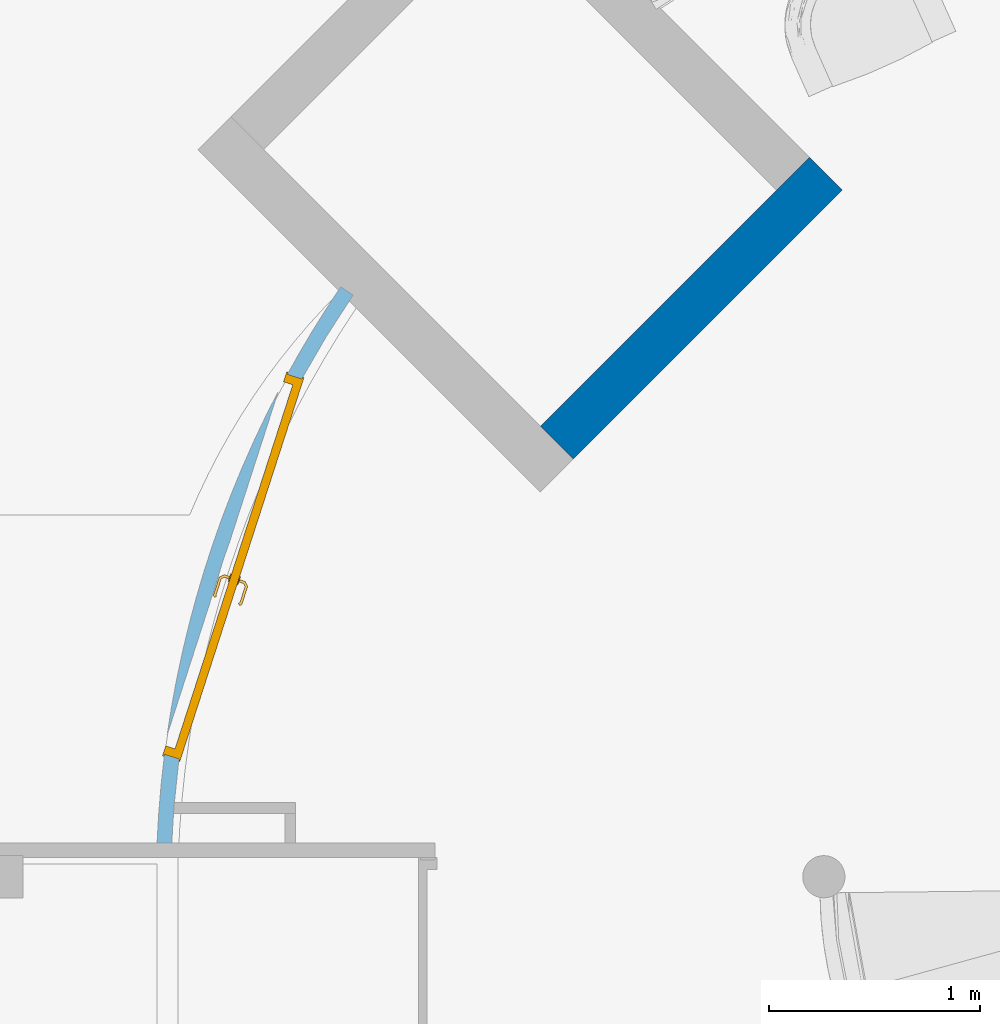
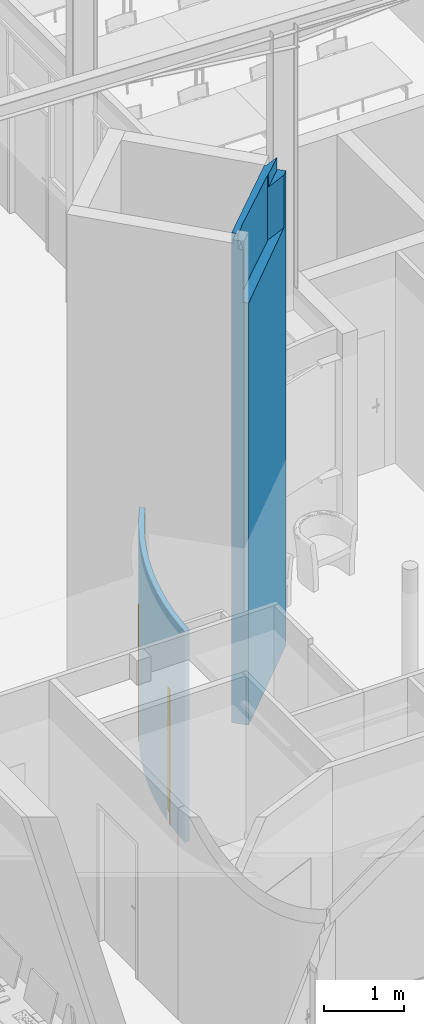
# One storey, part 88 of 137: 1 door, 1 wall, 1 opening, plus 1 element that does not belong to this part.
"""IFC2X3 building model written with IfcOpenShell, lengths in centimetres."""

from ifc_helpers import new_model, entity, si_unit, converted_unit, derived_unit, direction, frame, frame_2d, origin, place, context, subcontext, project, spatial, polyline, circle_curve, parameter, trimmed, segment, composite_curve, rectangle, outline, extrude, faceted_brep, source, transform, mapped, material, material_list, layer, layer_set, layer_usage, type_object, type_shapes, element, fill, save


model = new_model("IFC2X3")

# Units and contexts
model_context = context("Model", 3, precision=0.001, world=origin(), true_north=direction((6.12303176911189e-17, 1.0)))
body_context = subcontext(model_context, "Body", "Model", "MODEL_VIEW")
ifc_project = project(units=[si_unit("LENGTHUNIT", "METRE", prefix="CENTI"), si_unit("AREAUNIT", "SQUARE_METRE"), si_unit("VOLUMEUNIT", "CUBIC_METRE"), converted_unit("PLANEANGLEUNIT", "DEGREE", entity("IfcRatioMeasure", 0.0174532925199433), si_unit("PLANEANGLEUNIT", "RADIAN"), dimensions=[0, 0, 0, 0, 0, 0, 0]), si_unit("MASSUNIT", "GRAM", prefix="KILO"), si_unit("TIMEUNIT", "SECOND"), si_unit("FREQUENCYUNIT", "HERTZ"), si_unit("THERMODYNAMICTEMPERATUREUNIT", "DEGREE_CELSIUS"), derived_unit("THERMALTRANSMITTANCEUNIT", [(si_unit("MASSUNIT", "GRAM", prefix="KILO"), 1), (si_unit("THERMODYNAMICTEMPERATUREUNIT", "KELVIN"), -1), (si_unit("TIMEUNIT", "SECOND"), -3)]), derived_unit("VOLUMETRICFLOWRATEUNIT", [(si_unit("LENGTHUNIT", "METRE"), 3), (si_unit("TIMEUNIT", "SECOND"), -1)]), si_unit("ELECTRICCURRENTUNIT", "AMPERE"), si_unit("ELECTRICVOLTAGEUNIT", "VOLT"), si_unit("POWERUNIT", "WATT"), si_unit("FORCEUNIT", "NEWTON", prefix="KILO"), si_unit("ILLUMINANCEUNIT", "LUX"), si_unit("LUMINOUSFLUXUNIT", "LUMEN"), si_unit("LUMINOUSINTENSITYUNIT", "CANDELA"), derived_unit("USERDEFINED", [(si_unit("MASSUNIT", "GRAM", prefix="KILO"), -1), (si_unit("LENGTHUNIT", "METRE"), -2), (si_unit("TIMEUNIT", "SECOND"), 3), (si_unit("LUMINOUSFLUXUNIT", "LUMEN"), 1)]), derived_unit("LINEARVELOCITYUNIT", [(si_unit("LENGTHUNIT", "METRE"), 1), (si_unit("TIMEUNIT", "SECOND"), -1)]), si_unit("PRESSUREUNIT", "PASCAL"), derived_unit("USERDEFINED", [(si_unit("LENGTHUNIT", "METRE"), -2), (si_unit("MASSUNIT", "GRAM", prefix="KILO"), 1), (si_unit("TIMEUNIT", "SECOND"), -2)])], contexts=[model_context])

# Site, building, storey
site_placement = place(None, frame((8.62739174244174, -249.285249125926, 0.0)))
site = spatial("IfcSite", under=ifc_project, at=site_placement, Name="Default", CompositionType="ELEMENT")
building_placement = place(site_placement, origin())
building = spatial("IfcBuilding", under=site, at=building_placement, CompositionType="ELEMENT")
storey_placement = place(building_placement, origin())
storey = spatial("IfcBuildingStorey", under=building, at=storey_placement, Name="RDC", CompositionType="ELEMENT", Elevation=-8.82465566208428e-11)

# Wall, opening, door
ifc_material_1 = material(Name="Plâtre EXISTANT")
ifc_layer_1 = layer(ifc_material_1, 7.0)
ifc_layer_set_1 = layer_set([ifc_layer_1], Name="Mur de base:PLA EXISTANT 7")
ifc_layer_usage = layer_usage(ifc_layer_set_1, "AXIS2", "POSITIVE", -3.5)
wall_type_1 = type_object("IfcWallType", Name="Mur de base:PLA EXISTANT 7", PredefinedType="STANDARD", material=ifc_layer_set_1)
wall_1_placement = place(storey_placement, frame((2537.84354579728, 777.851436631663, 0.0)))
wall_1 = element("IfcWallStandardCase", 1, at=wall_1_placement, inside=storey, type_object=wall_type_1, material=ifc_layer_usage, Name="Mur de base:PLA EXISTANT 7", ObjectType="Mur de base:PLA EXISTANT 7", context=body_context, shape_type="SweptSolid", body=[
    extrude(outline(composite_curve([segment(trimmed(circle_curve(frame_2d((503.04621240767, -21.3719017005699), x_axis=(1.0, 0.0)), 507.000000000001), [parameter(145.861090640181)], [parameter(177.567253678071)], True, "PARAMETER"), True, "CONTINUOUS"), segment(polyline([(-3.49684556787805, 0.148563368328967), (3.50955751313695, 0.148563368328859)]), True, "CONTINUOUS"), segment(polyline([(3.50955751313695, 0.14856336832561), (3.86055669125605, 7.15319474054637)]), True, "CONTINUOUS"), segment(polyline([(3.86055669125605, 7.15319474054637), (4.30984132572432, 14.1523090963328)]), True, "CONTINUOUS"), segment(polyline([(4.30984132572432, 14.1523090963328), (4.49402175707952, 16.6506336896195)]), True, "CONTINUOUS"), segment(polyline([(4.49402175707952, 16.6506336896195), (4.6910426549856, 19.1509654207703)]), True, "CONTINUOUS"), segment(polyline([(4.6910426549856, 19.1509654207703), (7.13166242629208, 42.4149238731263)]), True, "CONTINUOUS"), segment(polyline([(7.13166242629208, 42.4149238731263), (10.6580216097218, 65.5410982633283)]), True, "CONTINUOUS"), segment(polyline([(10.6580216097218, 65.5410982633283), (15.2622207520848, 88.4769830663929)]), True, "CONTINUOUS"), segment(polyline([(15.2622207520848, 88.4769830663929), (20.9341817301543, 111.17239231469)]), True, "CONTINUOUS"), segment(polyline([(20.9341817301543, 111.17239231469), (27.6614928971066, 133.577665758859)]), True, "CONTINUOUS"), segment(polyline([(27.6614928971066, 133.577665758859), (35.4294361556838, 155.643777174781)]), True, "CONTINUOUS"), segment(polyline([(35.4294361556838, 155.643777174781), (44.2210190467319, 177.322441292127)]), True, "CONTINUOUS"), segment(polyline([(44.2210190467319, 177.322441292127), (54.0170117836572, 198.566219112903)]), True, "CONTINUOUS"), segment(polyline([(54.0170117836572, 198.566219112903), (64.795989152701, 219.328621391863)]), True, "CONTINUOUS"), segment(polyline([(64.795989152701, 219.328621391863), (76.5343406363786, 239.564150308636)]), True, "CONTINUOUS"), segment(polyline([(76.5343406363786, 239.564150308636), (89.2065045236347, 259.228697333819)]), True, "CONTINUOUS"), segment(polyline([(89.2065045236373, 259.228697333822), (83.4127486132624, 263.157105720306)]), True, "CONTINUOUS")], self_intersect=False)), origin(), (0.0, 0.0, 1.0), 322.000000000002),
])
opening_placement = place(wall_1_placement, frame((41.8345070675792, 28.4686335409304, 0.0)))
opening = element("IfcOpeningElement", 2, at=opening_placement, cuts=wall_1, Name="Double(R)_bois_Existant_mu:183 x 204 cm:1", ObjectType="Opening", context=body_context, shape_type="SweptSolid", body=[
    extrude(rectangle(XDim=206.999999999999, YDim=189.0, at=frame_2d((103.499999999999, 94.5), x_axis=(1.0, 0.0))), frame((0.0, 0.0, 0.0), z_axis=(-0.951478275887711, 0.307715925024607, 0.0), x_axis=(0.0, 0.0, 1.0)), (0.0, 0.0, 1.0), 45.5719508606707),
])
ifc_material_2 = material(Name="Porte - Poignée")
ifc_material_3 = material(Name="Porte - Cadre")
ifc_material_4 = material(Name="Porte - Panneau")
ifc_material_list_1 = material_list([ifc_material_2, ifc_material_3, ifc_material_4])
ifc_material_list_2 = material_list([ifc_material_2, ifc_material_3, ifc_material_4])
door_style = type_object("IfcDoorStyle", Name="183 x 204 cm", ConstructionType="NOTDEFINED", OperationType="DOUBLE_DOOR_SINGLE_SWING", ParameterTakesPrecedence=False, Sizeable=False, material=ifc_material_list_2)
shared_shape = source(origin(), body_context, "Body", "Brep", [
    faceted_brep([(89.2025298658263, 3.69999999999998, 100.778044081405), (88.7974701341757, 3.69999999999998, 100.778044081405), (88.3999999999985, 3.69999999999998, 100.699999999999), (88.4000000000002, 3.69999999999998, 99.3000000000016), (88.7974701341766, 3.69999999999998, 99.2219559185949), (89.2025298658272, 3.69999999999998, 99.2219559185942), (89.6000000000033, 3.69999999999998, 99.2999999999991), (89.600000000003, 3.69999999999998, 100.699999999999), (88.3999999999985, 5.94852045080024, 100.699999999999), (88.3999999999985, 5.94852045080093, 99.3000000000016), (88.7974701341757, 6.1131579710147, 100.778044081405), (89.2025298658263, 6.2809392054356, 100.778044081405), (87.583890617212, 7.89957845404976, 100.778044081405), (87.4161093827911, 7.49451872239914, 100.778044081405), (79.0793122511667, 7.49451872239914, 100.778044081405), (78.9115310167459, 7.89957845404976, 100.778044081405), (78.145104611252, 7.13315204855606, 100.778044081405), (78.4315250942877, 6.84673156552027, 100.778044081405), (89.6000000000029, 6.44557672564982, 100.699999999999), (89.6000000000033, 6.44557672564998, 99.2999999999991), (89.2025298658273, 6.28093920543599, 99.2219559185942), (88.7974701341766, 6.11315797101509, 99.2219559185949), (87.4161093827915, 7.49451872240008, 99.2219559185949), (87.5838906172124, 7.8995784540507, 99.2219559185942), (78.9115310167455, 7.8995784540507, 99.2219559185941), (79.0793122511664, 7.49451872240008, 99.2219559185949), (78.4315250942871, 6.84673156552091, 99.2219559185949), (78.1451046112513, 7.1331520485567, 99.2219559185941), (87.2514718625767, 7.09704858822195, 100.699999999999), (87.2514718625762, 7.09704858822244, 99.3000000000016), (87.7485281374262, 8.29704858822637, 100.699999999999), (87.7485281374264, 8.29704858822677, 99.2999999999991), (83.2477108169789, 7.09704858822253, 100.699999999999), (79.2439497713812, 7.09704858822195, 100.699999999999), (79.2439497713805, 7.09704858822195, 99.3000000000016), (83.2477108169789, 7.09704858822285, 99.3000000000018), (83.2477108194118, 7.71249275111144, 100.787811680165), (82.7399422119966, 8.29704858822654, 100.699999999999), (78.7468934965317, 8.29704858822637, 100.699999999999), (83.7554791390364, 8.29704858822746, 99.2999999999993), (78.7468934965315, 8.29704858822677, 99.2999999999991), (83.247710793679, 7.71249274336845, 99.2121883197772), (77.8640507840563, 7.41420587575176, 100.699999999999), (77.8640507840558, 7.41420587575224, 99.2999999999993), (78.7125789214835, 6.56567773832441, 99.3000000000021), (78.7125789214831, 6.56567773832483, 100.699999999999)], [[[0, 1, 2, 3, 4, 5, 6, 7]], [[8, 9, 3, 2]], [[1, 10, 8, 2]], [[1, 0, 11, 12, 13, 10]], [[14, 15, 16, 17]], [[7, 18, 11, 0]], [[18, 7, 6, 19]], [[6, 5, 20, 19]], [[5, 4, 21, 22, 23, 20]], [[24, 25, 26, 27]], [[4, 3, 9, 21]], [[28, 29, 9, 8]], [[8, 10, 13, 28]], [[18, 30, 12, 11]], [[31, 30, 18, 19]], [[19, 20, 23, 31]], [[21, 9, 29, 22]], [[29, 28, 32, 33, 34, 35]], [[36, 32, 13]], [[37, 38, 15]], [[37, 12, 30]], [[36, 12, 37]], [[14, 32, 36]], [[36, 15, 14]], [[28, 13, 32]], [[32, 14, 33]], [[12, 36, 13]], [[15, 36, 37]], [[30, 31, 39, 40, 38, 37]], [[23, 41, 39]], [[24, 39, 41]], [[39, 31, 23]], [[39, 24, 40]], [[22, 35, 41]], [[41, 23, 22]], [[41, 35, 25]], [[35, 22, 29]], [[34, 25, 35]], [[24, 41, 25]], [[17, 16, 42, 43, 27, 26, 44, 45]], [[45, 44, 34, 33]], [[33, 14, 17, 45]], [[15, 38, 42, 16]], [[43, 42, 38, 40]], [[24, 27, 43, 40]], [[34, 44, 26, 25]]]),
    faceted_brep([(88.7974701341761, -1.30000000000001, 100.778044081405), (89.2025298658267, -1.30000000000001, 100.778044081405), (89.6000000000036, -1.30000000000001, 100.699999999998), (89.6000000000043, -1.30000000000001, 99.2999999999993), (89.2025298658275, -1.30000000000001, 99.2219559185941), (88.7974701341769, -1.30000000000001, 99.2219559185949), (88.3999999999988, -1.30000000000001, 99.3000000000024), (88.3999999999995, -1.30000000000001, 100.699999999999), (89.2025298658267, -3.90045754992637, 100.778044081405), (89.6000000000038, -4.06509507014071, 100.699999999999), (88.7974701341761, -3.73267631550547, 100.778044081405), (87.4298602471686, -5.10028620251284, 100.778044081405), (87.5976414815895, -5.50534593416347, 100.778044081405), (78.9142453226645, -5.50534593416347, 100.778044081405), (79.0820265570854, -5.10028620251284, 100.778044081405), (78.4342394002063, -4.4524990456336, 100.778044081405), (78.1478189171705, -4.73891952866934, 100.778044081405), (88.3999999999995, -3.56803879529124, 100.699999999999), (88.3999999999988, -3.56803879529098, 99.3000000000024), (88.7974701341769, -3.7326763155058, 99.2219559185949), (89.2025298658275, -3.9004575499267, 99.2219559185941), (87.5976414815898, -5.50534593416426, 99.2219559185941), (87.4298602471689, -5.10028620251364, 99.2219559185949), (79.0820265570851, -5.10028620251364, 99.2219559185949), (78.9142453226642, -5.50534593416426, 99.2219559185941), (78.1478189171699, -4.73891952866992, 99.2219559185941), (78.4342394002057, -4.45249904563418, 99.2219559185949), (89.6000000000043, -4.06509507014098, 99.2999999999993), (87.7622790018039, -5.90281606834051, 100.699999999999), (87.2652227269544, -4.70281606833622, 100.699999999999), (87.2652227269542, -4.70281606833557, 99.3000000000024), (87.7622790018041, -5.90281606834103, 99.2999999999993), (83.255943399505, -5.31828027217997, 100.787811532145), (83.7692302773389, -5.90281606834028, 100.699999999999), (78.7496078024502, -5.90281606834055, 100.699999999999), (83.2559434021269, -4.70281606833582, 100.699999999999), (79.2466640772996, -4.70281606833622, 100.699999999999), (83.2559436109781, -4.70281606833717, 99.3000000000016), (79.2466640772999, -4.70281606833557, 99.3000000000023), (83.2559434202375, -5.31828027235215, 99.2121884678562), (82.7426572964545, -5.90281606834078, 99.2999999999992), (78.7496078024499, -5.90281606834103, 99.2999999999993), (78.715293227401, -4.17144521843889, 99.3000000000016), (77.8667650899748, -5.01997335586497, 99.2999999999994), (77.8667650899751, -5.01997335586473, 100.699999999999), (78.7152932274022, -4.17144521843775, 100.699999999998)], [[[0, 1, 2, 3, 4, 5, 6, 7]], [[2, 1, 8, 9]], [[1, 0, 10, 11, 12, 8]], [[13, 14, 15, 16]], [[0, 7, 17, 10]], [[18, 17, 7, 6]], [[5, 19, 18, 6]], [[5, 4, 20, 21, 22, 19]], [[23, 24, 25, 26]], [[3, 27, 20, 4]], [[9, 27, 3, 2]], [[9, 8, 12, 28]], [[10, 17, 29, 11]], [[30, 29, 17, 18]], [[18, 19, 22, 30]], [[20, 27, 31, 21]], [[28, 31, 27, 9]], [[12, 32, 33]], [[13, 33, 32]], [[33, 28, 12]], [[33, 13, 34]], [[11, 35, 32]], [[32, 12, 11]], [[32, 35, 14]], [[35, 11, 29]], [[36, 14, 35]], [[13, 32, 14]], [[29, 30, 37, 38, 36, 35]], [[39, 37, 22]], [[40, 41, 24]], [[40, 21, 31]], [[39, 21, 40]], [[23, 37, 39]], [[39, 24, 23]], [[30, 22, 37]], [[37, 23, 38]], [[21, 39, 22]], [[24, 39, 40]], [[31, 28, 33, 34, 41, 40]], [[42, 26, 25, 43, 44, 16, 15, 45]], [[13, 16, 44, 34]], [[36, 45, 15, 14]], [[42, 45, 36, 38]], [[38, 23, 26, 42]], [[24, 41, 43, 25]], [[44, 43, 41, 34]]]),
    faceted_brep([(89.0, 3.19999999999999, 86.4641016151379), (90.0352761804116, 3.19999999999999, 86.6003983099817), (91.0, 3.19999999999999, 87.0), (91.0, 3.19999999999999, 108.0), (90.0352761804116, 3.19999999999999, 108.399601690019), (89.0, 3.19999999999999, 108.535898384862), (87.9647238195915, 3.19999999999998, 108.399601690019), (87.0, 3.19999999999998, 108.0), (87.0, 3.19999999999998, 87.0), (87.9647238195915, 3.19999999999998, 86.6003983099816), (89.0, 3.69999999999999, 108.535898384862), (90.0352761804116, 3.69999999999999, 108.399601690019), (91.0, 3.69999999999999, 108.0), (91.0, 3.69999999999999, 87.0), (90.0352761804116, 3.69999999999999, 86.6003983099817), (89.0, 3.69999999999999, 86.4641016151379), (87.9647238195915, 3.69999999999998, 86.6003983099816), (87.0, 3.69999999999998, 87.0), (87.0, 3.69999999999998, 108.0), (87.9647238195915, 3.69999999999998, 108.399601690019)], [[[0, 1, 2, 3, 4, 5, 6, 7, 8, 9]], [[10, 11, 12, 13, 14, 15, 16, 17, 18, 19]], [[6, 19, 18, 7]], [[5, 10, 19, 6]], [[4, 11, 10, 5]], [[4, 3, 12, 11]], [[12, 3, 2, 13]], [[1, 14, 13, 2]], [[0, 15, 14, 1]], [[9, 16, 15, 0]], [[9, 8, 17, 16]], [[17, 8, 7, 18]]]),
    faceted_brep([(89.0, -1.30000000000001, 86.4641016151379), (90.0352761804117, -1.30000000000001, 86.6003983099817), (91.0, -1.3, 87.0), (91.0, -1.3, 108.0), (90.0352761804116, -1.30000000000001, 108.399601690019), (89.0, -1.30000000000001, 108.535898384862), (87.9647238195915, -1.30000000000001, 108.399601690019), (87.0, -1.30000000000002, 108.0), (87.0, -1.30000000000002, 87.0), (87.9647238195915, -1.30000000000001, 86.6003983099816), (91.0, -0.800000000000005, 108.0), (91.0, -0.800000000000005, 87.0), (90.0352761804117, -0.800000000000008, 86.6003983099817), (89.0, -0.800000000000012, 86.4641016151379), (87.9647238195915, -0.800000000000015, 86.6003983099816), (87.0, -0.800000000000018, 87.0), (87.0, -0.800000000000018, 108.0), (87.9647238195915, -0.800000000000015, 108.399601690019), (89.0, -0.800000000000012, 108.535898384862), (90.0352761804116, -0.800000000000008, 108.399601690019)], [[[0, 1, 2, 3, 4, 5, 6, 7, 8, 9]], [[10, 11, 12, 13, 14, 15, 16, 17, 18, 19]], [[1, 12, 11, 2]], [[0, 13, 12, 1]], [[9, 14, 13, 0]], [[9, 8, 15, 14]], [[15, 8, 7, 16]], [[6, 17, 16, 7]], [[5, 18, 17, 6]], [[4, 19, 18, 5]], [[4, 3, 10, 19]], [[10, 3, 2, 11]]]),
    faceted_brep([(189.0, 0.0, 0.0), (190.0, 0.0, 0.0), (190.0, -0.799999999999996, 0.0), (186.0, -0.799999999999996, 0.0), (186.0, 3.20000000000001, 0.0), (185.0, 3.20000000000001, 0.0), (185.0, 7.79999999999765, 0.0), (190.0, 7.79999999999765, 0.0), (190.0, 7.0, 0.0), (189.0, 7.0, 0.0), (189.0, 7.0, 207.0), (189.0, 0.0, 207.0), (190.0, 7.0, 208.0), (-1.0, 7.0, 208.0), (-1.0, 7.0, 0.0), (0.0, 7.0, 0.0), (0.0, 7.0, 207.0), (190.0, 7.79999999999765, 208.0), (185.0, 7.79999999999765, 203.0), (4.0, 7.79999999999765, 203.0), (4.0, 7.79999999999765, 0.0), (-1.0, 7.79999999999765, 0.0), (-1.0, 7.79999999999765, 208.0), (185.0, 3.20000000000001, 203.0), (186.0, 3.20000000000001, 204.0), (3.0, 3.20000000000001, 204.0), (3.0, 3.20000000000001, 0.0), (4.0, 3.20000000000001, 0.0), (4.0, 3.20000000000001, 203.0), (186.0, -0.799999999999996, 204.0), (190.0, -0.799999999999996, 208.0), (-1.0, -0.799999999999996, 208.0), (-1.0, -0.799999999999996, 0.0), (3.0, -0.799999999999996, 0.0), (3.0, -0.799999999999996, 204.0), (190.0, 0.0, 208.0), (0.0, 0.0, 207.0), (0.0, 0.0, 0.0), (-1.0, 0.0, 0.0), (-1.0, 0.0, 208.0)], [[[0, 1, 2, 3, 4, 5, 6, 7, 8, 9]], [[9, 10, 11, 0]], [[8, 12, 13, 14, 15, 16, 10, 9]], [[7, 17, 12, 8]], [[6, 18, 19, 20, 21, 22, 17, 7]], [[5, 23, 18, 6]], [[4, 24, 25, 26, 27, 28, 23, 5]], [[3, 29, 24, 4]], [[2, 30, 31, 32, 33, 34, 29, 3]], [[1, 35, 30, 2]], [[0, 11, 36, 37, 38, 39, 35, 1]], [[16, 15, 37, 36]], [[37, 15, 14, 21, 20, 27, 26, 33, 32, 38]], [[22, 21, 14, 13]], [[28, 27, 20, 19]], [[34, 33, 26, 25]], [[39, 38, 32, 31]], [[10, 16, 36, 11]], [[17, 22, 13, 12]], [[23, 28, 19, 18]], [[29, 34, 25, 24]], [[35, 39, 31, 30]]]),
    faceted_brep([(3.0, -0.799999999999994, 0.0), (94.5000000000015, -0.799999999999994, 0.0), (94.5000000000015, -0.799999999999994, 204.0), (3.0, -0.799999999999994, 204.0), (3.0, 3.20000000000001, 0.0), (3.0, 3.20000000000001, 204.0), (94.5000000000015, 3.20000000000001, 204.0), (94.5000000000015, 3.20000000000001, 0.0)], [[[0, 1, 2, 3]], [[4, 5, 6, 7]], [[3, 5, 4, 0]], [[2, 6, 5, 3]], [[1, 7, 6, 2]], [[0, 4, 7, 1]]]),
    faceted_brep([(186.0, -0.799999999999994, 204.0), (94.5000000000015, -0.799999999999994, 204.0), (94.5000000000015, -0.799999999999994, 0.0), (186.0, -0.799999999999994, 0.0), (186.0, 3.20000000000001, 204.0), (186.0, 3.20000000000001, 0.0), (94.5000000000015, 3.20000000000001, 0.0), (94.5000000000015, 3.20000000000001, 204.0)], [[[0, 1, 2, 3]], [[4, 5, 6, 7]], [[3, 5, 4, 0]], [[2, 6, 5, 3]], [[1, 7, 6, 2]], [[0, 4, 7, 1]]]),
])
type_shapes(door_style, [shared_shape])
door_placement = place(opening_placement, frame((-35.0323825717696, 11.3297615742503, 0.0), z_axis=(0.0, 0.0, 1.0), x_axis=(0.307715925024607, 0.951478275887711, 0.0)))
door = element("IfcDoor", 3, at=door_placement, inside=storey, type_object=door_style, material=ifc_material_list_1, Name="Double(R)_bois_Existant_mu:183 x 204 cm", ObjectType="183 x 204 cm", OverallHeight=206.999999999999, OverallWidth=189.0, context=body_context, shape_type="MappedRepresentation", body=[
    mapped(shared_shape, transform((0.0, 0.0, 0.0), scale=1.0)),
])
fill(opening, door)

# Wall
ifc_material_5 = material(Name="Plâtre")
ifc_layer_2 = layer(ifc_material_5, 2.0)
ifc_material_6 = material(Name="Maçonnerie")
ifc_layer_3 = layer(ifc_material_6, 20.0)
ifc_layer_set_2 = layer_set([ifc_layer_2, ifc_layer_3], Name="Mur de base:PLA 2 + PAR 20")
wall_type_2 = type_object("IfcWallType", Name="Mur de base:PLA 2 + PAR 20", PredefinedType="STANDARD", material=ifc_layer_set_2)
wall_2_placement = place(storey_placement, frame((2723.4210995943, 967.295012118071, 0.0), z_axis=(0.0, 0.0, 1.0), x_axis=(0.707106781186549, 0.707106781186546, 0.0)))
element("IfcWall", 4, at=wall_2_placement, inside=storey, type_object=wall_type_2, Name="Mur de base:PLA 2 + PAR 20", ObjectType="Mur de base:PLA 2 + PAR 20", context=body_context, shape_type="Brep", body=[
    faceted_brep([(0.0, -11.0, 0.0), (180.0, -11.0, 0.0), (180.0, -11.0, 723.0), (170.42387023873, -11.0, 723.0), (170.42387023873, -11.0, 643.0), (0.0, -11.0, 643.0), (180.0, 11.0, 0.0), (158.0, 11.0, 0.0), (0.0, 11.0, 0.0), (0.0, 11.0, 643.0), (0.0, 11.0, 746.265173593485), (158.0, 11.0, 742.363724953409), (158.0, 11.0, 643.0), (180.0, 11.0, 643.0), (158.0, 8.76510687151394, 742.308539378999), (158.0, 8.76510687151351, 643.0), (16.9900929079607, 3.04644967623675, 643.0), (138.136693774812, 1.39388583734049, 643.0), (138.136693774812, 1.39388583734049, 742.617002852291), (16.9900929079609, 3.04644967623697, 745.649247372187), (0.0, -3.47543594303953, 643.0), (139.494603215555, 0.87263324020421, 723.0), (139.494603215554, 0.872633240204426, 742.570601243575), (15.7253811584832, 2.56097232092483, 745.668488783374), (15.725381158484, 2.56097232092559, 723.0), (0.0, -3.47543594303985, 723.0), (0.0, 2.7754826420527, 723.0), (0.0, 2.77548264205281, 746.062087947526), (180.0, 0.320098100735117, 723.0), (180.0, 0.320098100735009, 741.556769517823), (180.0, 0.320098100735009, 643.0)], [[[0, 1, 2, 3, 4, 5]], [[6, 7, 8, 9, 10, 11, 12, 13]], [[1, 0, 8, 7, 6]], [[12, 11, 14, 15]], [[16, 17, 18, 19]], [[17, 16, 20, 5, 4]], [[18, 17, 4, 3, 21, 22]], [[20, 16, 19, 23, 24, 25]], [[0, 5, 20, 9, 8]], [[10, 9, 20, 25, 26, 27]], [[2, 28, 21, 3]], [[27, 26, 24, 23]], [[10, 27, 23, 19, 18, 22, 29, 14, 11]], [[14, 29, 28, 30, 15]], [[1, 6, 13, 30, 28, 2]], [[12, 15, 30, 13]], [[28, 29, 22, 21]], [[26, 25, 24]]]),
])

save(model, "model.ifc")
